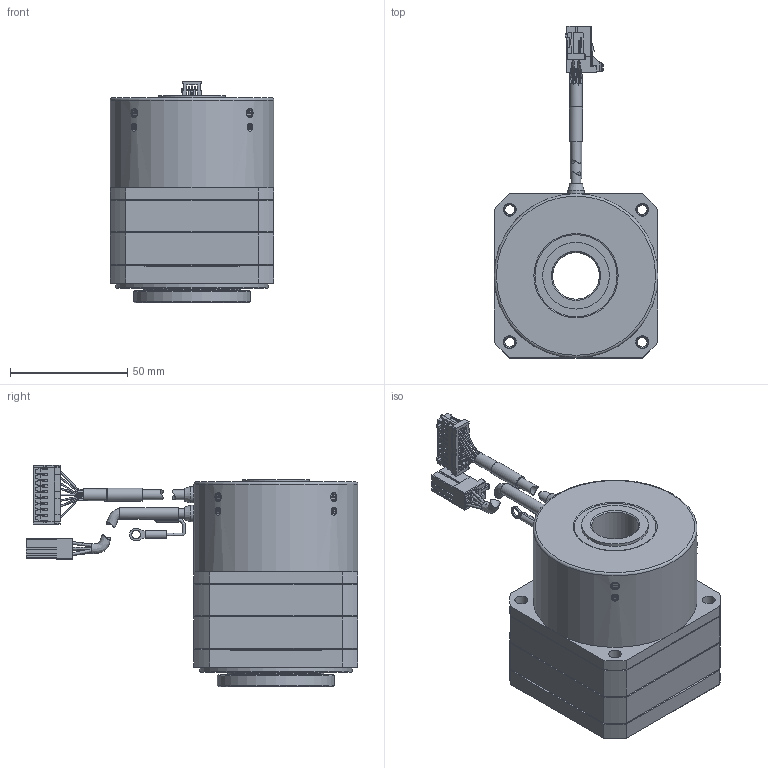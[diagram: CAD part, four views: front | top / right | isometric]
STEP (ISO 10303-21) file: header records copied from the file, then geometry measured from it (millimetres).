
FILE_DESCRIPTION(('STEP AP203'),'1');
FILE_NAME('EG03SH.stp','2023-02-23T03:02:18',(' '),(' '),'Spatial InterOp 3D',' ',' ');
FILE_SCHEMA(('CONFIG_CONTROL_DESIGN'));
Length unit declared in the file: millimetre
Products named in the file (18): 041977 14芯屈曲ケーブル(4.2)0.3M-HRS; ケーブルプッシュφ4.2 - コピー; アセンブリ用ケーブル; 熱収縮チューブ; DF1B-18DS-2.5RC; L22I04C MDH-7018-■■■EG03SH; 041976 3芯屈曲ケーブル(4.2)0.3M-TE;    1-1318119-3; - 圧着端子用リード線; FV1.25-3.7(JST製); - 熱収縮チューブ; 4.2ゴムブッシュ; ケーブル
Assembly tree (17 placements, depth 3):
  L22I04C MDH-7018-■■■EG03SH
    041977 14芯屈曲ケーブル(4.2)0.3M-HRS
      ケーブルプッシュφ4.2 - コピー
      アセンブリ用ケーブル
      熱収縮チューブ
      DF1B-18DS-2.5RC
    041976 3芯屈曲ケーブル(4.2)0.3M-TE
      041976 3芯屈曲ケーブル(4.2)0.3M-TE
      041976 3芯屈曲ケーブル(4.2)0.3M-TE
      041976 3芯屈曲ケーブル(4.2)0.3M-TE
      041976 3芯屈曲ケーブル(4.2)0.3M-TE
         1-1318119-3
      - 圧着端子用リード線
      FV1.25-3.7(JST製)
      - 熱収縮チューブ
      4.2ゴムブッシュ
      ケーブル
    L22I04C MDH-7018-■■■EG03SH
Bounding box: 70 x 141.7 x 94.4 mm (x, y, z)
Volume: 333871.6 mm3; surface area: 55740.4 mm2
Topology: 17 solids, 33 shells, 1663 faces, 4271 edges, 2727 vertices
Faces by surface type: plane 1180, cylinder 289, cone 137, bspline 30, torus 17, sphere 10
Full cylindrical faces by diameter (mm): 0.6 x45, 2.3 x4, 2.5 x14, 2.693 x8, 3 x20, 3.2 x8, 3.5 x1, 3.7 x1, 3.8 x4, 4.2 x14, 4.4 x1, 5 x1, 5.2 x1, 5.5 x20, 5.6 x1, 5.7 x4, 6.2 x8, 7 x2, 20 x2, 24 x1, 28.184 x1, 28.5 x1, 50 x1, 60 x1, 65 x1, 70 x1
Entity records: 52640 total; most frequent: CARTESIAN_POINT 12605, DIRECTION 7865, ORIENTED_EDGE 7650, EDGE_CURVE 3825, LINE 2871, VECTOR 2871, VERTEX_POINT 2600, AXIS2_PLACEMENT_3D 2497
